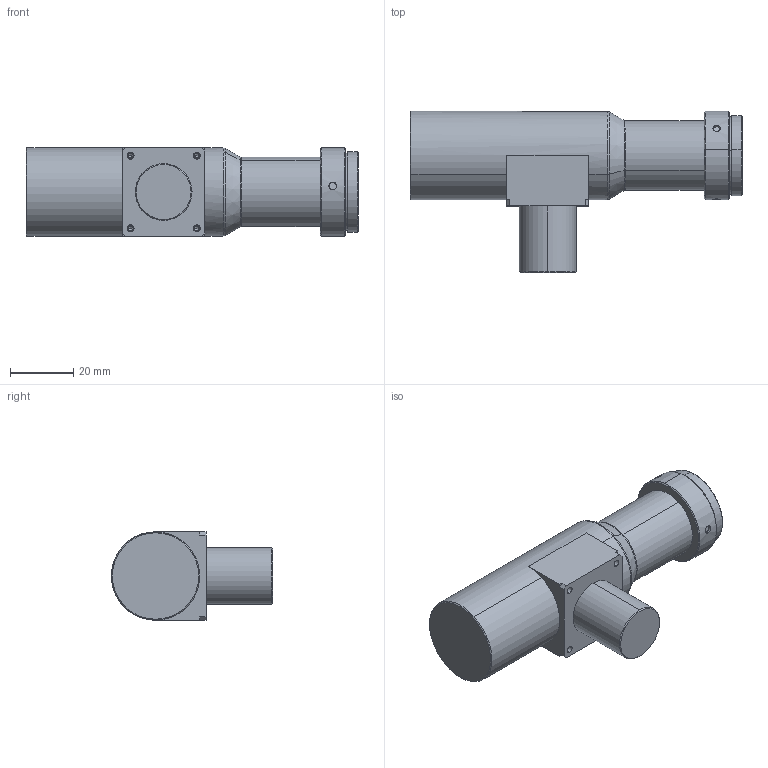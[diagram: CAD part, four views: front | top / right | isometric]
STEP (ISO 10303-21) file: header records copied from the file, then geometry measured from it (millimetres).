
FILE_DESCRIPTION (( 'STEP AP203' ), '1' );
FILE_NAME ('WWH10-63CTV3.STEP', '2023-08-16T01:56:00', ( '' ), ( '' ), 'SwSTEP 2.0', 'SolidWorks 2017', '' );
FILE_SCHEMA (( 'CONFIG_CONTROL_DESIGN' ));
Length unit declared in the file: millimetre
Products named in the file (1): WWH10-63CTV3
Bounding box: 105.27 x 51.09 x 28 mm (x, y, z)
Volume: 66701.8 mm3; surface area: 12285.9 mm2
Topology: 1 solids, 1 shells, 88 faces, 201 edges, 122 vertices
Faces by surface type: cylinder 38, cone 23, plane 23, torus 4
Entity records: 2750 total; most frequent: CARTESIAN_POINT 696, DIRECTION 435, ORIENTED_EDGE 386, EDGE_CURVE 193, AXIS2_PLACEMENT_3D 173, VERTEX_POINT 122, EDGE_LOOP 103, LINE 89
